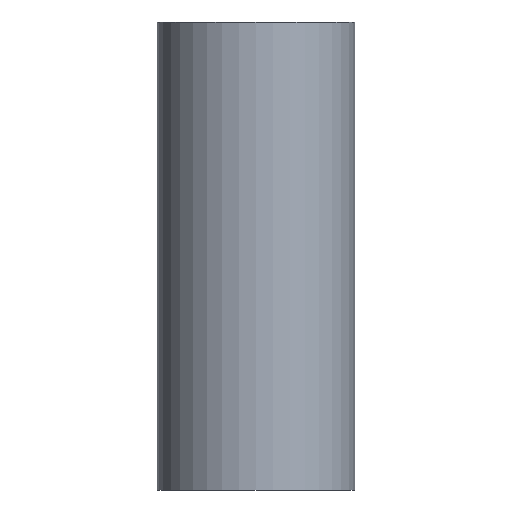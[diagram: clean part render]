
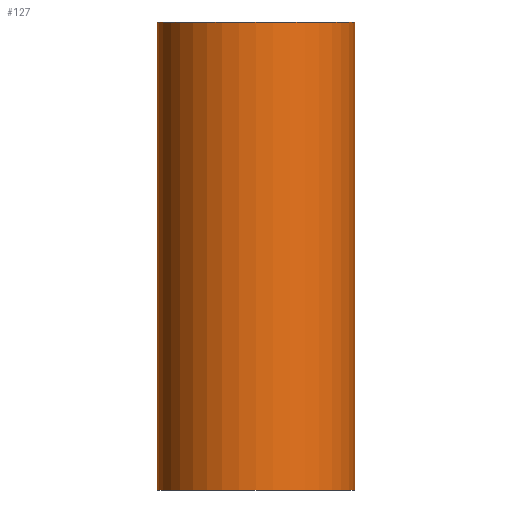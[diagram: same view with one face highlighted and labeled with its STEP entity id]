
A CAD part, front view. The second image highlights one B-rep face of the part: STEP entity #127.
In plain terms, the highlighted cylindrical face has radius 17.65 mm (diameter 35.3 mm), a partial arc.
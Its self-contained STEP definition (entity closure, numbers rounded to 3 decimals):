
#3 = CARTESIAN_POINT ( 'NONE',  ( 17.65, 0., 11. ) ) ;
#13 = CYLINDRICAL_SURFACE ( 'NONE', #417, 17.65 ) ;
#25 = CARTESIAN_POINT ( 'NONE',  ( 0., 0., 0. ) ) ;
#52 = DIRECTION ( 'NONE',  ( -1., 0., 0. ) ) ;
#67 = VERTEX_POINT ( 'NONE', #93 ) ;
#77 = ORIENTED_EDGE ( 'NONE', *, *, #340, .T. ) ;
#93 = CARTESIAN_POINT ( 'NONE',  ( 17.65, 0., -72.7 ) ) ;
#103 = CARTESIAN_POINT ( 'NONE',  ( -17.65, 0., 0. ) ) ;
#107 = CARTESIAN_POINT ( 'NONE',  ( 17.65, 0., 0. ) ) ;
#110 = EDGE_LOOP ( 'NONE', ( #467, #301, #77, #509 ) ) ;
#125 = CARTESIAN_POINT ( 'NONE',  ( 0., 0., 11. ) ) ;
#127 = ADVANCED_FACE ( 'NONE', ( #408 ), #13, .T. ) ;
#130 = CIRCLE ( 'NONE', #506, 17.65 ) ;
#132 = VECTOR ( 'NONE', #421, 1000. ) ;
#145 = LINE ( 'NONE', #103, #132 ) ;
#147 = LINE ( 'NONE', #107, #446 ) ;
#169 = DIRECTION ( 'NONE',  ( 0., 0., 1. ) ) ;
#179 = DIRECTION ( 'NONE',  ( 0., 0., -1. ) ) ;
#203 = CIRCLE ( 'NONE', #470, 17.65 ) ;
#261 = CARTESIAN_POINT ( 'NONE',  ( -17.65, 0., 11. ) ) ;
#276 = VERTEX_POINT ( 'NONE', #512 ) ;
#301 = ORIENTED_EDGE ( 'NONE', *, *, #442, .T. ) ;
#304 = VERTEX_POINT ( 'NONE', #261 ) ;
#323 = EDGE_CURVE ( 'NONE', #426, #67, #147, .T. ) ;
#329 = DIRECTION ( 'NONE',  ( -1., 0., 0. ) ) ;
#340 = EDGE_CURVE ( 'NONE', #304, #276, #145, .T. ) ;
#359 = DIRECTION ( 'NONE',  ( 0., 0., -1. ) ) ;
#396 = CARTESIAN_POINT ( 'NONE',  ( 0., 0., -72.7 ) ) ;
#403 = EDGE_CURVE ( 'NONE', #276, #67, #130, .T. ) ;
#408 = FACE_OUTER_BOUND ( 'NONE', #110, .T. ) ;
#417 = AXIS2_PLACEMENT_3D ( 'NONE', #25, #179, #329 ) ;
#421 = DIRECTION ( 'NONE',  ( 0., 0., -1. ) ) ;
#426 = VERTEX_POINT ( 'NONE', #3 ) ;
#442 = EDGE_CURVE ( 'NONE', #426, #304, #203, .T. ) ;
#446 = VECTOR ( 'NONE', #459, 1000. ) ;
#459 = DIRECTION ( 'NONE',  ( 0., 0., -1. ) ) ;
#467 = ORIENTED_EDGE ( 'NONE', *, *, #323, .F. ) ;
#470 = AXIS2_PLACEMENT_3D ( 'NONE', #125, #359, #474 ) ;
#474 = DIRECTION ( 'NONE',  ( -1., 0., 0. ) ) ;
#506 = AXIS2_PLACEMENT_3D ( 'NONE', #396, #169, #52 ) ;
#509 = ORIENTED_EDGE ( 'NONE', *, *, #403, .T. ) ;
#512 = CARTESIAN_POINT ( 'NONE',  ( -17.65, 0., -72.7 ) ) ;
